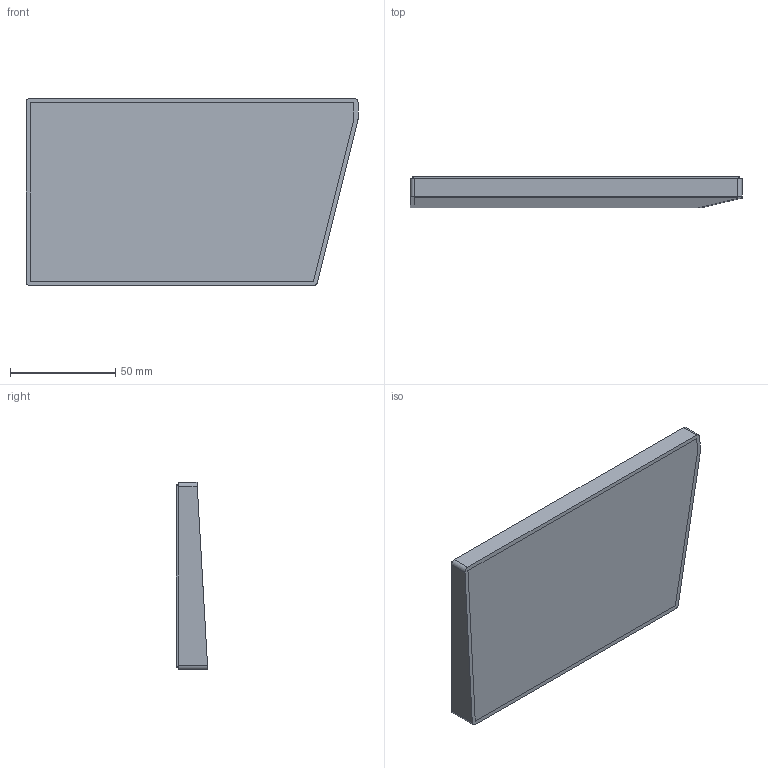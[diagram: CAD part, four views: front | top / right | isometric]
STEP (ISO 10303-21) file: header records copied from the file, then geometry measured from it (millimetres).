
FILE_DESCRIPTION(/* description */ (''),/* implementation_level */ '2;1');
FILE_NAME(/* name */ 'cradoll_keyboard_left_bottom_case v21.step',/* time_stamp */ '2025-06-19T10:19:26+09:00',/* author */ (''),/* organization */ (''),/* preprocessor_version */ 'ST-DEVELOPER v20.1',/* originating_system */ 'Autodesk Translation Framework v14.10.0.0',/* authorisation */ '');
FILE_SCHEMA (('AUTOMOTIVE_DESIGN { 1 0 10303 214 3 1 1 }'));
Length unit declared in the file: millimetre
Products named in the file (1): cradoll_keyboard_left_bottom_case
Bounding box: 157.75 x 15 x 89 mm (x, y, z)
Volume: 40598.7 mm3; surface area: 38938.9 mm2
Topology: 1 solids, 1 shells, 101 faces, 254 edges, 166 vertices
Faces by surface type: plane 47, cylinder 33, bspline 12, cone 9
Full cylindrical faces by diameter (mm): 2.4 x2, 2.497 x1, 2.498 x2, 2.499 x3, 2.5 x1
Entity records: 5080 total; most frequent: CARTESIAN_POINT 2618, ORIENTED_EDGE 508, DIRECTION 498, EDGE_CURVE 254, AXIS2_PLACEMENT_3D 191, VERTEX_POINT 166, EDGE_LOOP 118, LINE 116
